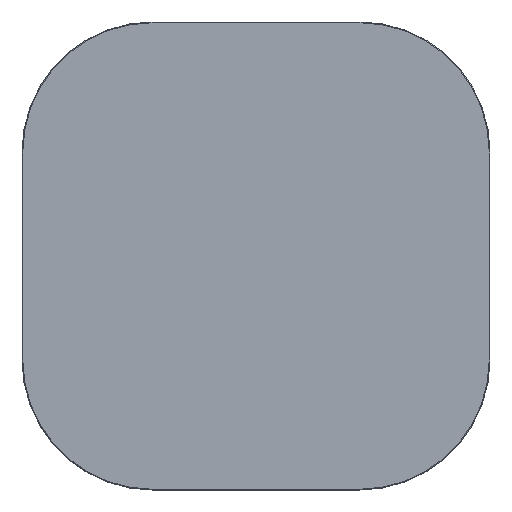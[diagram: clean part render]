
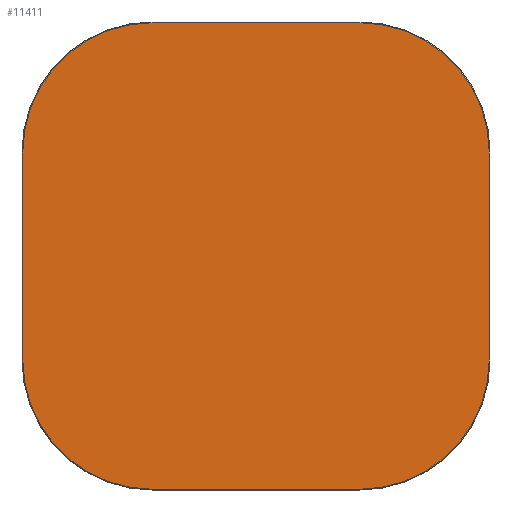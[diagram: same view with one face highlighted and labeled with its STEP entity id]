
A CAD part, top view. The second image highlights one B-rep face of the part: STEP entity #11411.
In plain terms, the highlighted planar face has unit normal (0, 0, 1).
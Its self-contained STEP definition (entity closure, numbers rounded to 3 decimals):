
#11336=CARTESIAN_POINT('',(0.,0.,20.));
#11337=DIRECTION('',(1.,0.,0.));
#11338=DIRECTION('',(0.,0.,1.));
#11339=AXIS2_PLACEMENT_3D('',#11336,#11338,#11337);
#11340=PLANE('',#11339);
#11341=CARTESIAN_POINT('',(-200.,-448.5,20.));
#11342=VERTEX_POINT('',#11341);
#11343=CARTESIAN_POINT('',(200.,-448.5,20.));
#11344=VERTEX_POINT('',#11343);
#11345=CARTESIAN_POINT('',(-200.,-448.5,20.));
#11346=DIRECTION('',(1.,0.,0.));
#11347=VECTOR('',#11346,400.);
#11348=LINE('',#11345,#11347);
#11349=EDGE_CURVE('',#11342,#11344,#11348,.T.);
#11350=ORIENTED_EDGE('E105',*,*,#11349,.T.);
#11351=CARTESIAN_POINT('',(448.5,-200.,20.));
#11352=VERTEX_POINT('',#11351);
#11353=CARTESIAN_POINT('',(200.,-200.,20.));
#11354=DIRECTION('',(0.,-1.,0.));
#11355=DIRECTION('',(0.,0.,1.));
#11356=AXIS2_PLACEMENT_3D('',#11353,#11355,#11354);
#11357=CIRCLE('',#11356,248.5);
#11358=EDGE_CURVE('',#11344,#11352,#11357,.T.);
#11359=ORIENTED_EDGE('E107',*,*,#11358,.T.);
#11360=CARTESIAN_POINT('',(448.5,200.,20.));
#11361=VERTEX_POINT('',#11360);
#11362=CARTESIAN_POINT('',(448.5,-200.,20.));
#11363=DIRECTION('',(0.,1.,0.));
#11364=VECTOR('',#11363,400.);
#11365=LINE('',#11362,#11364);
#11366=EDGE_CURVE('',#11352,#11361,#11365,.T.);
#11367=ORIENTED_EDGE('E109',*,*,#11366,.T.);
#11368=CARTESIAN_POINT('',(200.,448.5,20.));
#11369=VERTEX_POINT('',#11368);
#11370=CARTESIAN_POINT('',(200.,200.,20.));
#11371=DIRECTION('',(1.,0.,0.));
#11372=DIRECTION('',(0.,0.,1.));
#11373=AXIS2_PLACEMENT_3D('',#11370,#11372,#11371);
#11374=CIRCLE('',#11373,248.5);
#11375=EDGE_CURVE('',#11361,#11369,#11374,.T.);
#11376=ORIENTED_EDGE('E111',*,*,#11375,.T.);
#11377=CARTESIAN_POINT('',(-200.,448.5,20.));
#11378=VERTEX_POINT('',#11377);
#11379=CARTESIAN_POINT('',(200.,448.5,20.));
#11380=DIRECTION('',(-1.,0.,0.));
#11381=VECTOR('',#11380,400.);
#11382=LINE('',#11379,#11381);
#11383=EDGE_CURVE('',#11369,#11378,#11382,.T.);
#11384=ORIENTED_EDGE('E113',*,*,#11383,.T.);
#11385=CARTESIAN_POINT('',(-448.5,200.,20.));
#11386=VERTEX_POINT('',#11385);
#11387=CARTESIAN_POINT('',(-200.,200.,20.));
#11388=DIRECTION('',(0.,1.,0.));
#11389=DIRECTION('',(0.,0.,1.));
#11390=AXIS2_PLACEMENT_3D('',#11387,#11389,#11388);
#11391=CIRCLE('',#11390,248.5);
#11392=EDGE_CURVE('',#11378,#11386,#11391,.T.);
#11393=ORIENTED_EDGE('E115',*,*,#11392,.T.);
#11394=CARTESIAN_POINT('',(-448.5,-200.,20.));
#11395=VERTEX_POINT('',#11394);
#11396=CARTESIAN_POINT('',(-448.5,200.,20.));
#11397=DIRECTION('',(0.,-1.,0.));
#11398=VECTOR('',#11397,400.);
#11399=LINE('',#11396,#11398);
#11400=EDGE_CURVE('',#11386,#11395,#11399,.T.);
#11401=ORIENTED_EDGE('E117',*,*,#11400,.T.);
#11402=CARTESIAN_POINT('',(-200.,-200.,20.));
#11403=DIRECTION('',(-1.,0.,0.));
#11404=DIRECTION('',(-0.,0.,1.));
#11405=AXIS2_PLACEMENT_3D('',#11402,#11404,#11403);
#11406=CIRCLE('',#11405,248.5);
#11407=EDGE_CURVE('',#11395,#11342,#11406,.T.);
#11408=ORIENTED_EDGE('E119',*,*,#11407,.T.);
#11409=EDGE_LOOP('',(#11350,#11359,#11367,#11376,#11384,#11393,#11401,#11408));
#11410=FACE_OUTER_BOUND('',#11409,.T.);
#11411=ADVANCED_FACE('F2',(#11410),#11340,.T.);
